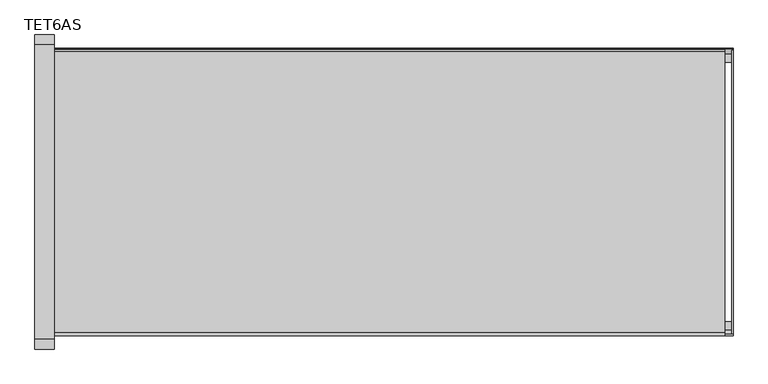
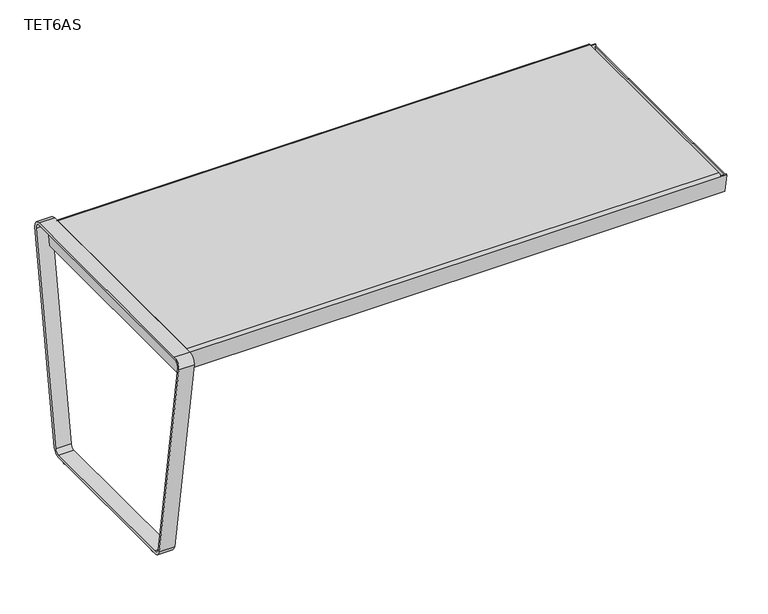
"""IFC4 building model written with IfcOpenShell, lengths in millimetres: furniture geometry, Stance_HC-Terrace-Table_ Steel : TET6AS."""

import ifcopenshell
import ifcopenshell.guid

model = None  # the IFC model being written
_history = None  # IfcOwnerHistory: only IFC2X3 demands one
_inside = {}  # id of a spatial element -> (the spatial element, [elements in it])
_under = {}  # id of a project, library or spatial element -> (it, [spatial elements below it])
_declared = {}  # id of a project -> (the project, [libraries it declares])
_typed = {}  # id of a type object -> (the type object, [elements of that type])
_made_of = {}  # id of a material, layer set ... -> (it, [elements and type objects made of it])


def new_model(schema):
    """Start an empty IFC model of exactly this schema.

    Asked for "IFC4X3", IfcOpenShell would pick the latest addendum, in which some entities
    have other attributes; the version numbers below select the first issue.
    IFC2X3 requires an IfcOwnerHistory on every rooted entity: one is made here for all.
    """
    global model, _history
    if schema == "IFC4X3":
        model = ifcopenshell.file(schema_version=(4, 3, 0, 0))
    else:
        model = ifcopenshell.file(schema=schema)
    _inside.clear()
    _under.clear()
    _declared.clear()
    _typed.clear()
    _made_of.clear()
    _history = None
    if model.schema == "IFC2X3":
        org = make("IfcOrganization", Name="unknown")
        user = make(
            "IfcPersonAndOrganization",
            ThePerson=make("IfcPerson", FamilyName="unknown"),
            TheOrganization=org,
        )
        app = make(
            "IfcApplication",
            ApplicationDeveloper=org,
            Version="unknown",
            ApplicationFullName="unknown",
            ApplicationIdentifier="unknown",
        )
        _history = make(
            "IfcOwnerHistory",
            OwningUser=user,
            OwningApplication=app,
            ChangeAction="ADDED",
            CreationDate=0,
        )
    return model


def make(cls, **values):
    """One entity of the class cls with the attributes given. An attribute that is None is left unset."""
    return model.create_entity(
        cls, **{name: value for name, value in values.items() if value is not None}
    )


def rooted(cls, **values):
    """An entity with a GlobalId (a new one), such as an element, a storey or a relation."""
    return make(cls, GlobalId=ifcopenshell.guid.new(), OwnerHistory=_history, **values)


def si_unit(unit_type, name, prefix=None):
    """IfcSIUnit, for example si_unit("LENGTHUNIT", "METRE", prefix="MILLI")."""
    return make("IfcSIUnit", UnitType=unit_type, Prefix=prefix, Name=name)


def assignment(units):
    """IfcUnitAssignment: the units of a project."""
    return None if units is None else make("IfcUnitAssignment", Units=units)


def point(xyz):
    """IfcCartesianPoint."""
    return None if xyz is None else make("IfcCartesianPoint", Coordinates=xyz)


def direction(xyz):
    """IfcDirection."""
    return None if xyz is None else make("IfcDirection", DirectionRatios=xyz)


def frame(location, z_axis=None, x_axis=None):
    """IfcAxis2Placement3D, a coordinate frame: its origin and axes. An axis left out is left unset."""
    return make(
        "IfcAxis2Placement3D",
        Location=point(location),
        Axis=direction(z_axis),
        RefDirection=direction(x_axis),
    )


def frame_2d(location, x_axis=None):
    """IfcAxis2Placement2D, a coordinate frame in the plane: its origin and x axis."""
    return make(
        "IfcAxis2Placement2D", Location=point(location), RefDirection=direction(x_axis)
    )


def origin():
    """The frame at (0, 0, 0) with its axes left unset."""
    return frame((0.0, 0.0, 0.0))


def origin_with_axes():
    """The frame at (0, 0, 0) with the z axis (0, 0, 1) and the x axis (1, 0, 0) written out."""
    return frame((0.0, 0.0, 0.0), z_axis=(0.0, 0.0, 1.0), x_axis=(1.0, 0.0, 0.0))


def place(relative_to, where):
    """IfcLocalPlacement: puts the frame where relative to a parent placement (None: the world)."""
    return make(
        "IfcLocalPlacement", PlacementRelTo=relative_to, RelativePlacement=where
    )


def context(
    kind, dimensions, precision=None, world=None, true_north=None, identifier=None
):
    """IfcGeometricRepresentationContext, for example the 3D "Model" context."""
    return make(
        "IfcGeometricRepresentationContext",
        ContextIdentifier=identifier,
        ContextType=kind,
        CoordinateSpaceDimension=dimensions,
        Precision=precision,
        WorldCoordinateSystem=world,
        TrueNorth=true_north,
    )


def project(units=None, contexts=None):
    """IfcProject with its units and contexts."""
    return rooted(
        "IfcProject",
        Name="project",
        RepresentationContexts=contexts,
        UnitsInContext=assignment(units),
    )


def spatial(cls, under=None, at=None, **own):
    """A site, building, storey or space (cls), placed at a placement, below another one or the project."""
    s = rooted(cls, ObjectPlacement=at, **own)
    if under is not None:
        _under.setdefault(under.id(), (under, []))[1].append(s)
    return s


def polyline(points):
    """IfcPolyline through the points."""
    return make("IfcPolyline", Points=[point(p) for p in points])


def circle_curve(where, radius):
    """IfcCircle in the frame where."""
    return make("IfcCircle", Position=where, Radius=radius)


def trimmed(basis, trim1, trim2, sense, master):
    """IfcTrimmedCurve: the piece of a basis curve between two trims."""
    return make(
        "IfcTrimmedCurve",
        BasisCurve=basis,
        Trim1=trim1,
        Trim2=trim2,
        SenseAgreement=sense,
        MasterRepresentation=master,
    )


def segment(curve, same_sense, transition):
    """IfcCompositeCurveSegment."""
    return make(
        "IfcCompositeCurveSegment",
        Transition=transition,
        SameSense=same_sense,
        ParentCurve=curve,
    )


def composite_curve(segments, self_intersect=None):
    """IfcCompositeCurve: segments joined end to end."""
    return make("IfcCompositeCurve", Segments=segments, SelfIntersect=self_intersect)


def outline(outer, holes=None, kind="AREA"):
    """IfcArbitraryClosedProfileDef: a profile drawn as a closed curve; with holes, ...WithVoids."""
    if holes is None:
        return make("IfcArbitraryClosedProfileDef", ProfileType=kind, OuterCurve=outer)
    return make(
        "IfcArbitraryProfileDefWithVoids",
        ProfileType=kind,
        OuterCurve=outer,
        InnerCurves=holes,
    )


def extrude(swept, where, along, depth):
    """IfcExtrudedAreaSolid: the profile swept, set in the frame where, extruded along a direction by depth."""
    return make(
        "IfcExtrudedAreaSolid",
        SweptArea=swept,
        Position=where,
        ExtrudedDirection=direction(along),
        Depth=depth,
    )


def shape(context_of_items, identifier, shape_type, items):
    """IfcShapeRepresentation: the items that make up one representation, for example the "Body"."""
    return make(
        "IfcShapeRepresentation",
        ContextOfItems=context_of_items,
        RepresentationIdentifier=identifier,
        RepresentationType=shape_type,
        Items=items,
    )


def source(mapping_origin, context_of_items, identifier, shape_type, items):
    """IfcRepresentationMap: a shape defined once, which mapped items show again and again."""
    return make(
        "IfcRepresentationMap",
        MappingOrigin=mapping_origin,
        MappedRepresentation=shape(context_of_items, identifier, shape_type, items),
    )


def transform(
    local_origin,
    x_axis=None,
    y_axis=None,
    z_axis=None,
    scale=None,
    scale2=None,
    scale3=None,
    uniform=True,
):
    """IfcCartesianTransformationOperator3D, or its non-uniform kind. x_axis, y_axis, z_axis: its Axis1, 2, 3."""
    if uniform:
        return make(
            "IfcCartesianTransformationOperator3D",
            Axis1=direction(x_axis),
            Axis2=direction(y_axis),
            LocalOrigin=point(local_origin),
            Scale=scale,
            Axis3=direction(z_axis),
        )
    return make(
        "IfcCartesianTransformationOperator3DnonUniform",
        Axis1=direction(x_axis),
        Axis2=direction(y_axis),
        LocalOrigin=point(local_origin),
        Scale=scale,
        Axis3=direction(z_axis),
        Scale2=scale2,
        Scale3=scale3,
    )


def mapped(mapping_source, mapping_target):
    """IfcMappedItem: shows the shape of a source again, moved by a transform."""
    return make(
        "IfcMappedItem", MappingSource=mapping_source, MappingTarget=mapping_target
    )


def made_of(thing, what):
    """Note that an element or type object is made of a material, layer set ...; save() writes the relation."""
    if what is not None:
        _made_of.setdefault(what.id(), (what, []))[1].append(thing)
    return thing


def element(
    cls,
    number,
    at=None,
    inside=None,
    cuts=None,
    type_object=None,
    material=None,
    context=None,
    identifier="Body",
    shape_type=None,
    held_by="IfcProductDefinitionShape",
    body=None,
    shapes=None,
    **own,
):
    """One element of the class cls, such as IfcWall. Its Tag is "e" and its number.

    at: its placement. inside: the storey or other place that contains it. cuts: it is an
    opening in that element (IfcRelVoidsElement). A single representation is given by context,
    identifier, shape_type and body (its items); several are given by shapes. held_by: the class
    of the entity that holds the representations. save() writes the other relations.
    """
    e = rooted(cls, Tag="e%d" % number, ObjectPlacement=at, **own)
    if body is not None:
        shapes = [shape(context, identifier, shape_type, body)]
    if shapes is not None:
        e.Representation = make(held_by, Representations=shapes)
    if inside is not None:
        _inside.setdefault(inside.id(), (inside, []))[1].append(e)
    if cuts is not None:
        rooted(
            "IfcRelVoidsElement", RelatingBuildingElement=cuts, RelatedOpeningElement=e
        )
    if type_object is not None:
        _typed.setdefault(type_object.id(), (type_object, []))[1].append(e)
    return made_of(e, material)


def aggregate(whole, parts):
    """IfcRelAggregates: a whole, such as a stair, and the parts it consists of."""
    return rooted("IfcRelAggregates", RelatingObject=whole, RelatedObjects=parts)


def save(model, path):
    """Write the relations noted so far, then the file.

    IfcRelAggregates (storeys below a building ...), IfcRelContainedInSpatialStructure (elements
    in a storey), IfcRelDefinesByType, IfcRelAssociatesMaterial and IfcRelDeclares: one each for
    every whole, place, type object, material and project.
    """
    for whole, parts in _under.values():
        aggregate(whole, parts)
    for where, things in _inside.values():
        rooted(
            "IfcRelContainedInSpatialStructure",
            RelatedElements=things,
            RelatingStructure=where,
        )
    for kind, things in _typed.values():
        rooted("IfcRelDefinesByType", RelatedObjects=things, RelatingType=kind)
    for what, things in _made_of.values():
        rooted("IfcRelAssociatesMaterial", RelatedObjects=things, RelatingMaterial=what)
    for by, libraries in _declared.values():
        rooted("IfcRelDeclares", RelatingContext=by, RelatedDefinitions=libraries)
    model.write(path)


def plane_surface(at):
    """IfcPlane: the flat surface through the origin of the frame at, square to its z axis."""
    return make("IfcPlane", Position=at)


def cylinder_surface(at, radius):
    """IfcCylindricalSurface: all points at the distance radius from the z axis of the frame at."""
    return make("IfcCylindricalSurface", Position=at, Radius=radius)


def revolved_surface(curve, axis_point, axis_direction):
    """IfcSurfaceOfRevolution: the curve turned about the line through axis_point along axis_direction."""
    return make(
        "IfcSurfaceOfRevolution",
        SweptCurve=make("IfcArbitraryOpenProfileDef", ProfileType="CURVE", Curve=curve),
        AxisPosition=make("IfcAxis1Placement", Location=point(axis_point), Axis=direction(axis_direction)),
    )


def advanced_brep(points, edges, surfaces, faces):
    """IfcAdvancedBrep: a solid bounded by faces that lie on surfaces and meet in shared edges.

    An edge is (start, end): straight between two places in points (the first is 0);
    or (start, end, curve); or (start, end, curve, False) where it runs against its curve.
    A face is (place in surfaces, loops), or (place, loops, False) where it looks against
    its surface's normal. A loop lists edges by number (the first is 1), with a minus sign
    where the edge is run from its end to its start. The first loop is the outer one.
    """
    corners = [point(p) for p in points]
    vertices = [make("IfcVertexPoint", VertexGeometry=c) for c in corners]
    made = []
    for start, end, *more in edges:
        made.append(
            make(
                "IfcEdgeCurve",
                EdgeStart=vertices[start],
                EdgeEnd=vertices[end],
                EdgeGeometry=more[0] if more else make("IfcPolyline", Points=[corners[start], corners[end]]),
                SameSense=more[1] if len(more) > 1 else True,
            )
        )
    hull = []
    for where, loops, *sense in faces:
        bounds = []
        for j, loop in enumerate(loops):
            ring = [make("IfcOrientedEdge", EdgeElement=made[abs(k) - 1], Orientation=k > 0) for k in loop]
            bounds.append(
                make(
                    "IfcFaceOuterBound" if j == 0 else "IfcFaceBound",
                    Bound=make("IfcEdgeLoop", EdgeList=ring),
                    Orientation=True,
                )
            )
        hull.append(make("IfcAdvancedFace", Bounds=bounds, FaceSurface=surfaces[where], SameSense=sense[0] if sense else True))
    return make("IfcAdvancedBrep", Outer=make("IfcClosedShell", CfsFaces=hull))


def tet6as_eda60ba4(model_context):
    return source(origin(), model_context, "Body", "SolidModel", [
        extrude(outline(polyline([(1441.45, 466.6001935), (1441.45, -283.1265265), (1352.55, -283.1265265), (1352.55, 466.6001935), (1441.45, 466.6001935)])), frame((0.0, 0.0, 762.0), z_axis=(0.0, 0.0, 1.0), x_axis=(1.0, 0.0, 0.0)), (0.0, 0.0, 1.0), 3.175),
        extrude(outline(composite_curve([segment(polyline([(-283.1265265, 762.0), (466.6001935, 762.0), (455.9632684, 701.675)]), True, "CONTINUOUS"), segment(trimmed(circle_curve(frame_2d((91.7368335, 7660.7390549)), 6968.5890549), [point((455.9632684, 701.675))], [point((-272.4896014, 701.675))], False, "CARTESIAN"), True, "CONTINUOUS"), segment(polyline([(-272.4896014, 701.675), (-283.1265265, 762.0)]), True, "CONTINUOUS")], self_intersect=False)), frame((1394.6124, 0.0, 0.0), z_axis=(1.0, 0.0, 0.0), x_axis=(0.0, 1.0, 0.0)), (0.0, 0.0, 1.0), 4.7752),
        extrude(outline(polyline([(1212.85, 466.6001935), (1212.85, -283.1265265), (1123.95, -283.1265265), (1123.95, 466.6001935), (1212.85, 466.6001935)])), frame((0.0, 0.0, 762.0), z_axis=(0.0, 0.0, 1.0), x_axis=(1.0, 0.0, 0.0)), (0.0, 0.0, 1.0), 3.175),
        extrude(outline(composite_curve([segment(polyline([(-283.1265265, 762.0), (466.6001935, 762.0), (455.9632684, 701.675)]), True, "CONTINUOUS"), segment(trimmed(circle_curve(frame_2d((91.7368335, 7660.7390549)), 6968.5890549), [point((455.9632684, 701.675))], [point((-272.4896014, 701.675))], False, "CARTESIAN"), True, "CONTINUOUS"), segment(polyline([(-272.4896014, 701.675), (-283.1265265, 762.0)]), True, "CONTINUOUS")], self_intersect=False)), frame((1166.0124, 0.0, 0.0), z_axis=(1.0, 0.0, 0.0), x_axis=(0.0, 1.0, 0.0)), (0.0, 0.0, 1.0), 4.7752),
        extrude(outline(polyline([(984.25, 466.6001935), (984.25, -283.1265265), (895.35, -283.1265265), (895.35, 466.6001935), (984.25, 466.6001935)])), frame((0.0, 0.0, 762.0), z_axis=(0.0, 0.0, 1.0), x_axis=(1.0, 0.0, 0.0)), (0.0, 0.0, 1.0), 3.175),
        extrude(outline(composite_curve([segment(polyline([(-283.1265265, 762.0), (466.6001935, 762.0), (455.9632684, 701.675)]), True, "CONTINUOUS"), segment(trimmed(circle_curve(frame_2d((91.7368335, 7660.7390549)), 6968.5890549), [point((455.9632684, 701.675))], [point((-272.4896014, 701.675))], False, "CARTESIAN"), True, "CONTINUOUS"), segment(polyline([(-272.4896014, 701.675), (-283.1265265, 762.0)]), True, "CONTINUOUS")], self_intersect=False)), frame((937.4124, 0.0, 0.0), z_axis=(1.0, 0.0, 0.0), x_axis=(0.0, 1.0, 0.0)), (0.0, 0.0, 1.0), 4.7752),
        extrude(outline(polyline([(755.65, 466.6001935), (755.65, -283.1265265), (666.75, -283.1265265), (666.75, 466.6001935), (755.65, 466.6001935)])), frame((0.0, 0.0, 762.0), z_axis=(0.0, 0.0, 1.0), x_axis=(1.0, 0.0, 0.0)), (0.0, 0.0, 1.0), 3.175),
        extrude(outline(composite_curve([segment(polyline([(-283.1265265, 762.0), (466.6001935, 762.0), (455.9632684, 701.675)]), True, "CONTINUOUS"), segment(trimmed(circle_curve(frame_2d((91.7368335, 7660.7390549)), 6968.5890549), [point((455.9632684, 701.675))], [point((-272.4896014, 701.675))], False, "CARTESIAN"), True, "CONTINUOUS"), segment(polyline([(-272.4896014, 701.675), (-283.1265265, 762.0)]), True, "CONTINUOUS")], self_intersect=False)), frame((708.8124, 0.0, 0.0), z_axis=(1.0, 0.0, 0.0), x_axis=(0.0, 1.0, 0.0)), (0.0, 0.0, 1.0), 4.7752),
        extrude(outline(polyline([(527.05, 466.6001935), (527.05, -283.1265265), (438.15, -283.1265265), (438.15, 466.6001935), (527.05, 466.6001935)])), frame((0.0, 0.0, 762.0), z_axis=(0.0, 0.0, 1.0), x_axis=(1.0, 0.0, 0.0)), (0.0, 0.0, 1.0), 3.175),
        extrude(outline(composite_curve([segment(polyline([(-283.1265265, 762.0), (466.6001935, 762.0), (455.9632684, 701.675)]), True, "CONTINUOUS"), segment(trimmed(circle_curve(frame_2d((91.7368335, 7660.7390549)), 6968.5890549), [point((455.9632684, 701.675))], [point((-272.4896014, 701.675))], False, "CARTESIAN"), True, "CONTINUOUS"), segment(polyline([(-272.4896014, 701.675), (-283.1265265, 762.0)]), True, "CONTINUOUS")], self_intersect=False)), frame((480.2124, 0.0, 0.0), z_axis=(1.0, 0.0, 0.0), x_axis=(0.0, 1.0, 0.0)), (0.0, 0.0, 1.0), 4.7752),
        extrude(outline(polyline([(1670.05, 466.6001935), (1670.05, -283.1265265), (1581.15, -283.1265265), (1581.15, 466.6001935), (1670.05, 466.6001935)])), frame((0.0, 0.0, 762.0), z_axis=(0.0, 0.0, 1.0), x_axis=(1.0, 0.0, 0.0)), (0.0, 0.0, 1.0), 3.175),
        extrude(outline(composite_curve([segment(polyline([(-283.1265265, 762.0), (466.6001935, 762.0), (455.9632684, 701.675)]), True, "CONTINUOUS"), segment(trimmed(circle_curve(frame_2d((91.7368335, 7660.7390549)), 6968.5890549), [point((455.9632684, 701.675))], [point((-272.4896014, 701.675))], False, "CARTESIAN"), True, "CONTINUOUS"), segment(polyline([(-272.4896014, 701.675), (-283.1265265, 762.0)]), True, "CONTINUOUS")], self_intersect=False)), frame((1623.2124, 0.0, 0.0), z_axis=(1.0, 0.0, 0.0), x_axis=(0.0, 1.0, 0.0)), (0.0, 0.0, 1.0), 4.7752),
        extrude(outline(polyline([(298.45, 466.6001935), (298.45, -283.1265265), (209.55, -283.1265265), (209.55, 466.6001935), (298.45, 466.6001935)])), frame((0.0, 0.0, 762.0), z_axis=(0.0, 0.0, 1.0), x_axis=(1.0, 0.0, 0.0)), (0.0, 0.0, 1.0), 3.175),
        extrude(outline(composite_curve([segment(polyline([(-283.1265265, 762.0), (466.6001935, 762.0), (455.9632684, 701.675)]), True, "CONTINUOUS"), segment(trimmed(circle_curve(frame_2d((91.7368335, 7660.7390549)), 6968.5890549), [point((455.9632684, 701.675))], [point((-272.4896014, 701.675))], False, "CARTESIAN"), True, "CONTINUOUS"), segment(polyline([(-272.4896014, 701.675), (-283.1265265, 762.0)]), True, "CONTINUOUS")], self_intersect=False)), frame((251.6124, 0.0, 0.0), z_axis=(1.0, 0.0, 0.0), x_axis=(0.0, 1.0, 0.0)), (0.0, 0.0, 1.0), 4.7752),
        extrude(outline(composite_curve([segment(trimmed(circle_curve(frame_2d((25.4, 346.0495496)), 22.225), [point((3.175, 346.0495496))], [point((47.625, 346.0495496))], False, "CARTESIAN"), True, "CONTINUOUS"), segment(trimmed(circle_curve(frame_2d((25.4, 346.0495496)), 22.225), [point((47.625, 346.0495496))], [point((3.175, 346.0495496))], False, "CARTESIAN"), True, "CONTINUOUS")], self_intersect=False)), origin_with_axes(), (0.0, 0.0, 1.0), 6.35),
        extrude(outline(composite_curve([segment(trimmed(circle_curve(frame_2d((25.4, -161.9504504)), 22.225), [point((3.175, -161.9504504))], [point((47.625, -161.9504504))], False, "CARTESIAN"), True, "CONTINUOUS"), segment(trimmed(circle_curve(frame_2d((25.4, -161.9504504)), 22.225), [point((47.625, -161.9504504))], [point((3.175, -161.9504504))], False, "CARTESIAN"), True, "CONTINUOUS")], self_intersect=False)), origin_with_axes(), (0.0, 0.0, 1.0), 6.35),
        extrude(outline(polyline([(461.2929482, 692.15), (-277.1938489, 692.15), (-288.9504504, 758.825), (473.0495496, 758.825), (461.2929482, 692.15)])), frame((22.225, 0.0, 0.0), z_axis=(1.0, 0.0, 0.0), x_axis=(0.0, 1.0, 0.0)), (0.0, 0.0, 1.0), 6.35),
        extrude(outline(composite_curve([segment(polyline([(-298.9301104, 768.35), (483.0292096, 768.35)]), True, "CONTINUOUS"), segment(trimmed(circle_curve(frame_2d((483.0292096, 742.95)), 25.4), [point((483.0292096, 768.35))], [point((508.1164935, 738.9765646))], False, "CARTESIAN"), True, "CONTINUOUS"), segment(polyline([(508.1164935, 738.9765646), (395.4734795, 27.7765646)]), True, "CONTINUOUS"), segment(trimmed(circle_curve(frame_2d((370.3861957, 31.75)), 25.4), [point((395.4734795, 27.7765646))], [point((370.3861957, 6.35))], False, "CARTESIAN"), True, "CONTINUOUS"), segment(polyline([(370.3861957, 6.35), (-186.2870964, 6.35)]), True, "CONTINUOUS"), segment(trimmed(circle_curve(frame_2d((-186.2870964, 31.75)), 25.4), [point((-186.2870964, 6.35))], [point((-211.3743803, 27.7765646))], False, "CARTESIAN"), True, "CONTINUOUS"), segment(polyline([(-211.3743803, 27.7765646), (-324.0173942, 738.9765646)]), True, "CONTINUOUS"), segment(trimmed(circle_curve(frame_2d((-298.9301104, 742.95)), 25.4), [point((-324.0173942, 738.9765646))], [point((-298.9301104, 768.35))], False, "CARTESIAN"), True, "CONTINUOUS")], self_intersect=False), holes=[composite_curve([segment(polyline([(386.0657481, 29.2666029), (498.708762, 740.4666029)]), True, "CONTINUOUS"), segment(trimmed(circle_curve(frame_2d((483.0292096, 742.95)), 15.875), [point((498.708762, 740.4666029))], [point((483.0292096, 758.825))], True, "CARTESIAN"), True, "CONTINUOUS"), segment(polyline([(483.0292096, 758.825), (-298.9301104, 758.825)]), True, "CONTINUOUS"), segment(trimmed(circle_curve(frame_2d((-298.9301104, 742.95)), 15.875), [point((-298.9301104, 758.825))], [point((-314.6096628, 740.4666029))], True, "CARTESIAN"), True, "CONTINUOUS"), segment(polyline([(-314.6096628, 740.4666029), (-201.9666488, 29.2666029)]), True, "CONTINUOUS"), segment(trimmed(circle_curve(frame_2d((-186.2870964, 31.75)), 15.875), [point((-201.9666488, 29.2666029))], [point((-186.2870964, 15.875))], True, "CARTESIAN"), True, "CONTINUOUS"), segment(polyline([(-186.2870964, 15.875), (370.3861957, 15.875)]), True, "CONTINUOUS"), segment(trimmed(circle_curve(frame_2d((370.3861957, 31.75)), 15.875), [point((370.3861957, 15.875))], [point((386.0657481, 29.2666029))], True, "CARTESIAN"), True, "CONTINUOUS")], self_intersect=False)]), frame((0.0, 0.0, 0.0), z_axis=(1.0, 0.0, 0.0), x_axis=(0.0, 1.0, 0.0)), (0.0, 0.0, 1.0), 50.8),
        advanced_brep(
        [(1851.025, -277.1018344, 692.15), (1851.025, -251.7018344, 692.15), (1851.025, -251.7018344, 695.325), (1851.025, -274.4376931, 695.325), (1851.025, -285.6344564, 758.825), (1851.025, -288.8584359, 758.825), (1851.025, 458.5367924, 695.325), (1851.025, 435.8009337, 695.325), (1851.025, 435.8009337, 692.15), (1851.025, 461.2009337, 692.15), (1851.025, 472.9575351, 758.825), (1851.025, 469.7335556, 758.825), (28.575, 461.2009337, 692.15), (28.575, 435.8009337, 692.15), (28.575, 435.8009337, 695.325), (28.575, 458.5367924, 695.325), (28.575, 469.7335556, 758.825), (28.575, 472.9575351, 758.825), (28.575, -274.4376931, 695.325), (28.575, -251.7018344, 695.325), (28.575, -251.7018344, 692.15), (28.575, -277.1018344, 692.15), (28.575, -288.8584359, 758.825), (28.575, -285.6344564, 758.825), (1828.8, -281.0784062, 768.35), (50.8, -281.0784062, 768.35), (50.8, -288.8953178, 759.0341676), (1828.8, -288.8953178, 759.0341676), (1828.8, -288.8584359, 758.825), (50.8, -288.8584359, 758.825), (50.8, -285.6344564, 758.825), (50.8, -285.7685532, 759.5855006), (1828.8, -285.7685532, 759.5855006), (1828.8, -285.6344564, 758.825), (50.8, -281.0784062, 765.175), (1828.8, -281.0784062, 765.175), (50.8, 465.1775055, 765.175), (1828.8, 465.1775055, 765.175), (50.8, 469.8676524, 759.5855006), (1828.8, 469.8676524, 759.5855006), (1828.8, 469.7335556, 758.825), (50.8, 469.7335556, 758.825), (50.8, 472.9575351, 758.825), (50.8, 472.994417, 759.0341676), (1828.8, 472.994417, 759.0341676), (1828.8, 472.9575351, 758.825), (50.8, 465.1775055, 768.35), (1828.8, 465.1775055, 768.35)],
        [
            (0, 1),
            (1, 2),
            (2, 3),
            (3, 4),
            (4, 5),
            (5, 0),
            (6, 7),
            (7, 8),
            (8, 9),
            (9, 10),
            (10, 11),
            (11, 6),
            (12, 13),
            (13, 14),
            (14, 15),
            (15, 16),
            (16, 17),
            (17, 12),
            (18, 19),
            (19, 20),
            (20, 21),
            (21, 22),
            (22, 23),
            (23, 18),
            (24, 25),
            (25, 26, circle_curve(frame((50.8, -281.0784062, 760.4125), z_axis=(1.0, 0.0, 0.0), x_axis=(0.0, 1.0, 0.0)), 7.9375)),
            (26, 27),
            (27, 24, circle_curve(frame((1828.8, -281.0784062, 760.4125), z_axis=(-1.0, 0.0, 0.0), x_axis=(0.0, 1.0, 0.0)), 7.9375)),
            (21, 0),
            (5, 28),
            (28, 27),
            (26, 29),
            (29, 22),
            (20, 1),
            (19, 2),
            (18, 3),
            (23, 30),
            (30, 31),
            (31, 32),
            (32, 33),
            (33, 4),
            (31, 34, circle_curve(frame((50.8, -281.0784062, 760.4125), z_axis=(-1.0, 0.0, 0.0), x_axis=(0.0, 1.0, 0.0)), 4.7625)),
            (34, 35),
            (35, 32, circle_curve(frame((1828.8, -281.0784062, 760.4125), z_axis=(1.0, 0.0, 0.0), x_axis=(0.0, 1.0, 0.0)), 4.7625)),
            (34, 36),
            (36, 37),
            (37, 35),
            (36, 38, circle_curve(frame((50.8, 465.1775055, 760.4125), z_axis=(-1.0, 0.0, 0.0), x_axis=(0.0, 1.0, 0.0)), 4.7625)),
            (38, 39),
            (39, 37, circle_curve(frame((1828.8, 465.1775055, 760.4125), z_axis=(1.0, 0.0, 0.0), x_axis=(0.0, 1.0, 0.0)), 4.7625)),
            (15, 6),
            (11, 40),
            (40, 39),
            (38, 41),
            (41, 16),
            (14, 7),
            (13, 8),
            (12, 9),
            (17, 42),
            (42, 43),
            (43, 44),
            (44, 45),
            (45, 10),
            (43, 46, circle_curve(frame((50.8, 465.1775055, 760.4125), z_axis=(1.0, 0.0, 0.0), x_axis=(0.0, 1.0, 0.0)), 7.9375)),
            (46, 47),
            (47, 44, circle_curve(frame((1828.8, 465.1775055, 760.4125), z_axis=(-1.0, 0.0, 0.0), x_axis=(0.0, 1.0, 0.0)), 7.9375)),
            (24, 47),
            (46, 25),
            (29, 30),
            (41, 42),
            (28, 33),
            (40, 45),
        ],
        [
            plane_surface(frame((1851.025, -273.1409062, 760.4125), z_axis=(1.0, 0.0, 0.0), x_axis=(0.0, 0.0, 1.0))),
            plane_surface(frame((28.575, -273.1409062, 760.4125), z_axis=(-1.0, 0.0, 0.0), x_axis=(0.0, 0.0, -1.0))),
            cylinder_surface(frame((28.575, -281.0784062, 760.4125), z_axis=(1.0, 0.0, 0.0), x_axis=(0.0, 1.0, 0.0)), 7.9375),
            plane_surface(frame((1851.025, -288.8953178, 759.0341676), z_axis=(0.0, -0.9848077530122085, -0.1736481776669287), x_axis=(-1.0, 0.0, 0.0))),
            plane_surface(frame((1851.025, -277.1018344, 692.15), z_axis=(0.0, 0.0, -1.0), x_axis=(-1.0, 0.0, 0.0))),
            plane_surface(frame((1851.025, -251.7018344, 692.15), z_axis=(0.0, 1.0, 0.0), x_axis=(-1.0, 0.0, 0.0))),
            plane_surface(frame((1851.025, -251.7018344, 695.325), z_axis=(0.0, 0.0, 1.0), x_axis=(-1.0, 0.0, 0.0))),
            plane_surface(frame((1851.025, -274.4376931, 695.325), z_axis=(0.0, 0.9848077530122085, 0.17364817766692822), x_axis=(-1.0, 0.0, 0.0))),
            revolved_surface(polyline([(50.8, -276.31590620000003, 760.4125), (1828.8, -276.31590620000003, 760.4125)]), (28.575, -281.0784062, 760.4125), (-1.0, 0.0, 0.0)),
            plane_surface(frame((1851.025, -281.0784062, 765.175), z_axis=(0.0, 0.0, -1.0), x_axis=(-1.0, 0.0, 0.0))),
            revolved_surface(polyline([(50.8, 469.9400055, 760.4125), (1828.8, 469.9400055, 760.4125)]), (28.575, 465.1775055, 760.4125), (-1.0, 0.0, 0.0)),
            plane_surface(frame((1851.025, 469.8676524, 759.5855006), z_axis=(0.0, -0.9848077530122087, 0.17364817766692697), x_axis=(-1.0, 0.0, 0.0))),
            plane_surface(frame((1851.025, 458.5367924, 695.325), z_axis=(0.0, 0.0, 1.0), x_axis=(-1.0, 0.0, 0.0))),
            plane_surface(frame((1851.025, 435.8009337, 695.325), z_axis=(0.0, -1.0, 0.0), x_axis=(-1.0, 0.0, 0.0))),
            plane_surface(frame((1851.025, 435.8009337, 692.15), z_axis=(0.0, 0.0, -1.0), x_axis=(-1.0, 0.0, 0.0))),
            plane_surface(frame((1851.025, 461.2009337, 692.15), z_axis=(0.0, 0.9848077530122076, -0.17364817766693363), x_axis=(-1.0, 0.0, 0.0))),
            cylinder_surface(frame((28.575, 465.1775055, 760.4125), z_axis=(1.0, 0.0, 0.0), x_axis=(0.0, 1.0, 0.0)), 7.9375),
            plane_surface(frame((1851.025, 465.1775055, 768.35), z_axis=(0.0, 0.0, 1.0), x_axis=(-1.0, 0.0, 0.0))),
            plane_surface(frame((28.575, -342.7835065, 758.825), z_axis=(0.0, 0.0, 1.0), x_axis=(0.0, 1.0, 0.0))),
            plane_surface(frame((50.8, -342.7835065, 758.825), z_axis=(-1.0, 0.0, 0.0), x_axis=(0.0, 1.0, 0.0))),
            plane_surface(frame((1828.8, -342.7835065, 776.4227825), z_axis=(1.0, 0.0, 0.0), x_axis=(0.0, 1.0, 0.0))),
            plane_surface(frame((1828.8, -342.7835065, 758.825), z_axis=(0.0, 0.0, 1.0), x_axis=(0.0, 1.0, 0.0))),
        ],
        [
            (0, [[1, 2, 3, 4, 5, 6]]),
            (0, [[7, 8, 9, 10, 11, 12]]),
            (1, [[13, 14, 15, 16, 17, 18]]),
            (1, [[19, 20, 21, 22, 23, 24]]),
            (2, [[25, 26, 27, 28]]),
            (3, [[29, -6, 30, 31, -27, 32, 33, -22]]),
            (4, [[-1, -29, -21, 34]]),
            (5, [[-2, -34, -20, 35]]),
            (6, [[-3, -35, -19, 36]]),
            (7, [[-36, -24, 37, 38, 39, 40, 41, -4]]),
            (8, [[-39, 42, 43, 44]]),
            (9, [[-43, 45, 46, 47]]),
            (10, [[-46, 48, 49, 50]]),
            (11, [[51, -12, 52, 53, -49, 54, 55, -16]]),
            (12, [[-7, -51, -15, 56]]),
            (13, [[-8, -56, -14, 57]]),
            (14, [[-9, -57, -13, 58]]),
            (15, [[-58, -18, 59, 60, 61, 62, 63, -10]]),
            (16, [[-61, 64, 65, 66]]),
            (17, [[-25, 67, -65, 68]]),
            (18, [[69, -37, -23, -33]]),
            (18, [[70, -59, -17, -55]]),
            (19, [[-69, -32, -26, -68, -64, -60, -70, -54, -48, -45, -42, -38]]),
            (20, [[71, -40, -44, -47, -50, -53, 72, -62, -66, -67, -28, -31]]),
            (21, [[-71, -30, -5, -41]]),
            (21, [[-72, -52, -11, -63]]),
        ],
    ),
        extrude(outline(polyline([(-283.6878665, 752.475), (467.1615335, 752.475), (456.5246084, 692.15), (-273.0509414, 692.15), (-283.6878665, 752.475)])), frame((1847.85, 0.0, 0.0), z_axis=(1.0, 0.0, 0.0), x_axis=(0.0, 1.0, 0.0)), (0.0, 0.0, 1.0), 3.175),
        extrude(outline(polyline([(-283.6878665, 752.475), (467.1615335, 752.475), (456.5246084, 692.15), (-273.0509414, 692.15), (-283.6878665, 752.475)])), frame((28.575, 0.0, 0.0), z_axis=(1.0, 0.0, 0.0), x_axis=(0.0, 1.0, 0.0)), (0.0, 0.0, 1.0), 4.7625),
    ])


if __name__ == "__main__":
    model = new_model("IFC4")
    model_context = context("Model", 3, world=origin())
    ifc_project = project(units=[si_unit("LENGTHUNIT", "METRE", prefix="MILLI")], contexts=[model_context])
    site = spatial("IfcSite", under=ifc_project)
    building = spatial("IfcBuilding", under=site)
    placement = place(None, origin())
    tet6as_shape = tet6as_eda60ba4(model_context)
    element("IfcFurniture", 1, ObjectType="Stance_HC-Terrace-Table_ Steel : TET6AS", at=placement, inside=building, context=model_context, shape_type="MappedRepresentation", body=[
        mapped(tet6as_shape, transform((0.0, 0.0, 0.0), x_axis=(1.0, 0.0, 0.0), y_axis=(0.0, 1.0, 0.0), z_axis=(0.0, 0.0, 1.0))),
    ])
    save(model, "model.ifc")
